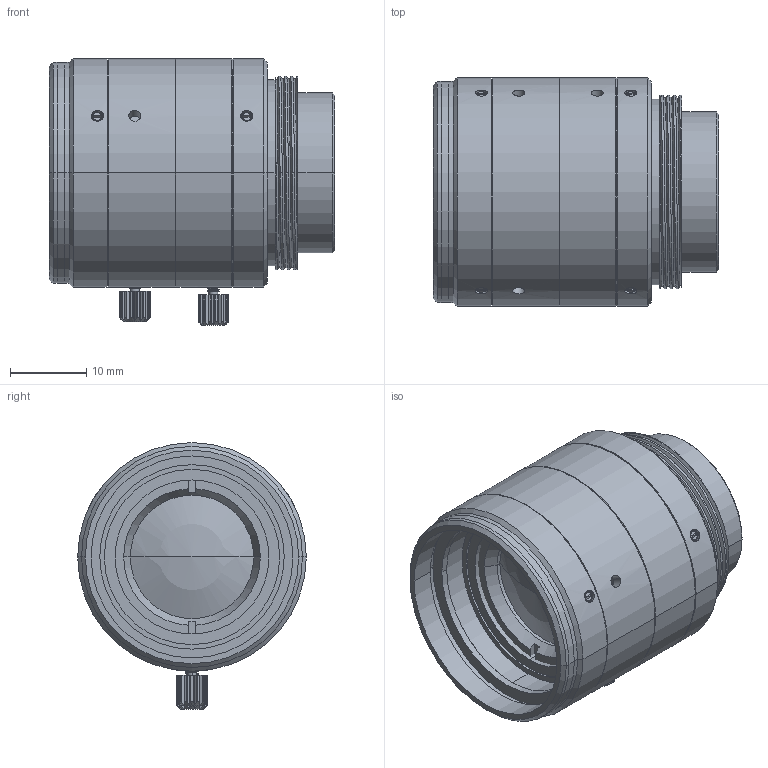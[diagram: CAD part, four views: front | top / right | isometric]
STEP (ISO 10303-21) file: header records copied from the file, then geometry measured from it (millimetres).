
FILE_DESCRIPTION((''),'2;1');
FILE_NAME('16MM-2MP_WX_BFL__ASM','2016-02-23T',('dfhjn'),(''),'CREO PARAMETRIC BY PTC INC, 2015380','CREO PARAMETRIC BY PTC INC, 2015380','');
FILE_SCHEMA(('CONFIG_CONTROL_DESIGN'));
Length unit declared in the file: millimetre
Products named in the file (15): MANIFOLD_SOLID_BREP_386; MANIFOLD_SOLID_BREP_1202; JP_4_ASM_ASM; CJ_7; QY_11; GD_19; TJ_17; TG_14; HY_7; M1_1; SJD-2M_2; 16MM-2MP_ASM_30_ASM_ASM; J_1; 16MM-2MP_ASM_ASM_ASM; 16MM-2MP_WX_BFL__ASM
Assembly tree (20 placements, depth 5):
  16MM-2MP_WX_BFL__ASM
    16MM-2MP_ASM_ASM_ASM
      16MM-2MP_ASM_30_ASM_ASM
        JP_4_ASM_ASM
          MANIFOLD_SOLID_BREP_386
          MANIFOLD_SOLID_BREP_1202
        CJ_7
        QY_11
        GD_19
        TJ_17
        TG_14
        HY_7
        M1_1  x6
        SJD-2M_2  x2
      J_1
Bounding box: 37.41 x 30 x 35 mm (x, y, z)
Volume: 9973.5 mm3; surface area: 15196.5 mm2
Topology: 17 solids, 19 shells, 599 faces, 1636 edges, 1086 vertices
Faces by surface type: cylinder 281, plane 179, bspline 68, cone 63, sphere 8
Entity records: 21259 total; most frequent: CARTESIAN_POINT 6822, DIRECTION 1848, ORIENTED_EDGE 1846, PRESENTATION_STYLE_ASSIGNMENT 1288, STYLED_ITEM 988, CURVE_STYLE 927, EDGE_CURVE 927, AXIS2_PLACEMENT_3D 753
